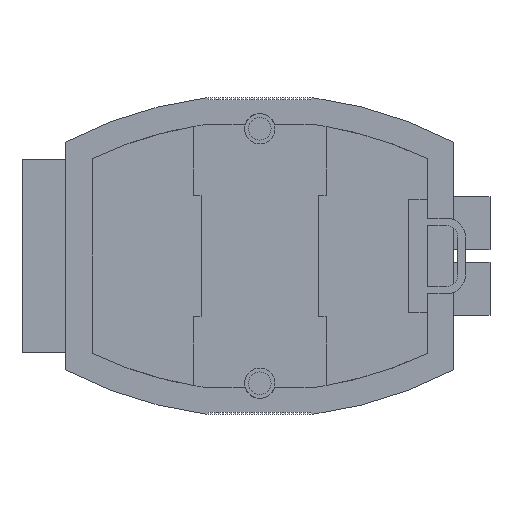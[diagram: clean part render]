
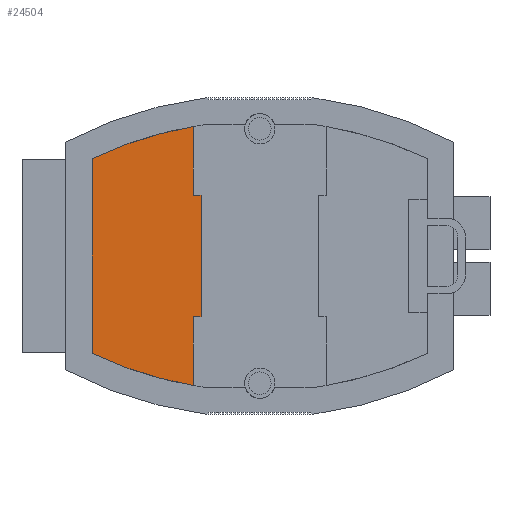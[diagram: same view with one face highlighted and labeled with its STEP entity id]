
A CAD part, front view. The second image highlights one B-rep face of the part: STEP entity #24504.
In plain terms, the highlighted planar face has unit normal (0, -1, 0).
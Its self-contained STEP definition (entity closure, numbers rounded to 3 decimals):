
#1798 = ORIENTED_EDGE ( 'NONE', *, *, #4691, .T. ) ;
#2102 = CARTESIAN_POINT ( 'NONE',  ( -17.5, -8., -16. ) ) ;
#3089 = DIRECTION ( 'NONE',  ( 0., 0., -1. ) ) ;
#3197 = ORIENTED_EDGE ( 'NONE', *, *, #16388, .F. ) ;
#3349 = EDGE_CURVE ( 'NONE', #26839, #30115, #12147, .T. ) ;
#4358 = AXIS2_PLACEMENT_3D ( 'NONE', #23894, #21052, #16139 ) ;
#4691 = EDGE_CURVE ( 'NONE', #20385, #25705, #23308, .T. ) ;
#4935 = VERTEX_POINT ( 'NONE', #28847 ) ;
#5363 = CARTESIAN_POINT ( 'NONE',  ( -17.5, -8., -16. ) ) ;
#5907 = ORIENTED_EDGE ( 'NONE', *, *, #12042, .T. ) ;
#5986 = CARTESIAN_POINT ( 'NONE',  ( -17.5, -8., -34.145 ) ) ;
#6627 = LINE ( 'NONE', #13188, #31270 ) ;
#7106 = AXIS2_PLACEMENT_3D ( 'NONE', #7903, #7592, #20072 ) ;
#7592 = DIRECTION ( 'NONE',  ( 0., -1., 0. ) ) ;
#7890 = ORIENTED_EDGE ( 'NONE', *, *, #22379, .F. ) ;
#7903 = CARTESIAN_POINT ( 'NONE',  ( 0., -8., 67.358 ) ) ;
#7930 = ORIENTED_EDGE ( 'NONE', *, *, #3349, .F. ) ;
#8590 = DIRECTION ( 'NONE',  ( 0., 0., -1. ) ) ;
#8647 = DIRECTION ( 'NONE',  ( 0., 0., -1. ) ) ;
#9798 = DIRECTION ( 'NONE',  ( -1., 0., 0. ) ) ;
#10947 = LINE ( 'NONE', #25723, #30553 ) ;
#12042 = EDGE_CURVE ( 'NONE', #15615, #4935, #23561, .T. ) ;
#12147 = LINE ( 'NONE', #23075, #16797 ) ;
#12528 = CARTESIAN_POINT ( 'NONE',  ( -44.2, -8., -25.676 ) ) ;
#13188 = CARTESIAN_POINT ( 'NONE',  ( -17.5, -8., 34.145 ) ) ;
#13901 = CARTESIAN_POINT ( 'NONE',  ( -17.5, -8., 34.145 ) ) ;
#14370 = AXIS2_PLACEMENT_3D ( 'NONE', #26248, #28508, #8590 ) ;
#14879 = LINE ( 'NONE', #15043, #19071 ) ;
#15043 = CARTESIAN_POINT ( 'NONE',  ( -17.5, -8., 16. ) ) ;
#15615 = VERTEX_POINT ( 'NONE', #13901 ) ;
#16139 = DIRECTION ( 'NONE',  ( 0., 0., -1. ) ) ;
#16388 = EDGE_CURVE ( 'NONE', #31080, #26839, #14879, .T. ) ;
#16797 = VECTOR ( 'NONE', #20473, 1000. ) ;
#17699 = PLANE ( 'NONE',  #7106 ) ;
#17940 = VERTEX_POINT ( 'NONE', #2102 ) ;
#19071 = VECTOR ( 'NONE', #26868, 1000. ) ;
#19462 = CARTESIAN_POINT ( 'NONE',  ( -15.5, -8., -16. ) ) ;
#20072 = DIRECTION ( 'NONE',  ( 0., 0., -1. ) ) ;
#20385 = VERTEX_POINT ( 'NONE', #12528 ) ;
#20473 = DIRECTION ( 'NONE',  ( 0., 0., -1. ) ) ;
#20660 = DIRECTION ( 'NONE',  ( 0., 0., -1. ) ) ;
#21052 = DIRECTION ( 'NONE',  ( 0., -1., 0. ) ) ;
#21871 = EDGE_CURVE ( 'NONE', #17940, #25705, #23223, .T. ) ;
#22379 = EDGE_CURVE ( 'NONE', #15615, #31080, #6627, .T. ) ;
#23075 = CARTESIAN_POINT ( 'NONE',  ( -15.5, -8., 16. ) ) ;
#23220 = CARTESIAN_POINT ( 'NONE',  ( -15.5, -8., 16. ) ) ;
#23223 = LINE ( 'NONE', #5363, #24412 ) ;
#23308 = CIRCLE ( 'NONE', #4358, 103. ) ;
#23548 = CARTESIAN_POINT ( 'NONE',  ( -15.5, -8., -16. ) ) ;
#23561 = CIRCLE ( 'NONE', #14370, 103. ) ;
#23743 = VECTOR ( 'NONE', #9798, 1000. ) ;
#23894 = CARTESIAN_POINT ( 'NONE',  ( 0., -8., 67.358 ) ) ;
#24412 = VECTOR ( 'NONE', #3089, 1000. ) ;
#24504 = ADVANCED_FACE ( 'NONE', ( #27705 ), #17699, .T. ) ;
#24526 = LINE ( 'NONE', #19462, #23743 ) ;
#24823 = ORIENTED_EDGE ( 'NONE', *, *, #27644, .T. ) ;
#25219 = EDGE_LOOP ( 'NONE', ( #31580, #30931, #7930, #3197, #7890, #5907, #24823, #1798 ) ) ;
#25705 = VERTEX_POINT ( 'NONE', #5986 ) ;
#25723 = CARTESIAN_POINT ( 'NONE',  ( -44.2, -8., -25.676 ) ) ;
#26248 = CARTESIAN_POINT ( 'NONE',  ( 0., -8., -67.358 ) ) ;
#26576 = EDGE_CURVE ( 'NONE', #30115, #17940, #24526, .T. ) ;
#26839 = VERTEX_POINT ( 'NONE', #23220 ) ;
#26868 = DIRECTION ( 'NONE',  ( 1., 0., 0. ) ) ;
#27644 = EDGE_CURVE ( 'NONE', #4935, #20385, #10947, .T. ) ;
#27705 = FACE_OUTER_BOUND ( 'NONE', #25219, .T. ) ;
#28508 = DIRECTION ( 'NONE',  ( 0., -1., 0. ) ) ;
#28847 = CARTESIAN_POINT ( 'NONE',  ( -44.2, -8., 25.676 ) ) ;
#30115 = VERTEX_POINT ( 'NONE', #23548 ) ;
#30366 = CARTESIAN_POINT ( 'NONE',  ( -17.5, -8., 16. ) ) ;
#30553 = VECTOR ( 'NONE', #20660, 1000. ) ;
#30931 = ORIENTED_EDGE ( 'NONE', *, *, #26576, .F. ) ;
#31080 = VERTEX_POINT ( 'NONE', #30366 ) ;
#31270 = VECTOR ( 'NONE', #8647, 1000. ) ;
#31580 = ORIENTED_EDGE ( 'NONE', *, *, #21871, .F. ) ;
